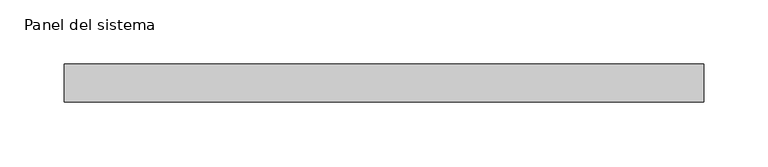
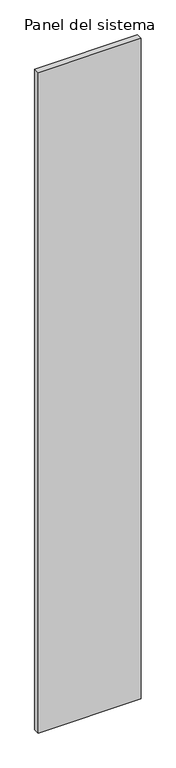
"""IFC4 building model written with IfcOpenShell, lengths in millimetres: plate geometry, Panel del sistema : HIANSA PANEL - PANELES DE CUBIERTA SIN TAPAJUNTA - EASY BOARD 3GR - Esp. 30mm."""

from ifc_helpers import new_model, si_unit, origin, origin_with_axes, place, context, project, spatial, polyline, outline, extrude, source, transform, mapped, element, save


def panel_del_sistema_f5e17b8b(model_context):
    return source(origin(), model_context, "Body", "SweptSolid", [
        extrude(outline(polyline([(249.9999998, 35.5), (-249.9999998, 35.5), (-249.9999998, 65.5), (249.9999998, 65.5), (249.9999998, 35.5)])), origin_with_axes(), (0.0, 0.0, 1.0), 3390.8509027),
    ])


if __name__ == "__main__":
    model = new_model("IFC4")
    model_context = context("Model", 3, world=origin())
    ifc_project = project(units=[si_unit("LENGTHUNIT", "METRE", prefix="MILLI")], contexts=[model_context])
    site = spatial("IfcSite", under=ifc_project)
    building = spatial("IfcBuilding", under=site)
    placement = place(None, origin())
    panel_del_sistema_shape = panel_del_sistema_f5e17b8b(model_context)
    element("IfcPlate", 1, ObjectType="Panel del sistema : HIANSA PANEL - PANELES DE CUBIERTA SIN TAPAJUNTA - EASY BOARD 3GR - Esp. 30mm", at=placement, inside=building, context=model_context, shape_type="MappedRepresentation", body=[
        mapped(panel_del_sistema_shape, transform((0.0, 0.0, 0.0), x_axis=(1.0, 0.0, 0.0), y_axis=(0.0, 1.0, 0.0), z_axis=(0.0, 0.0, 1.0))),
    ])
    save(model, "model.ifc")
